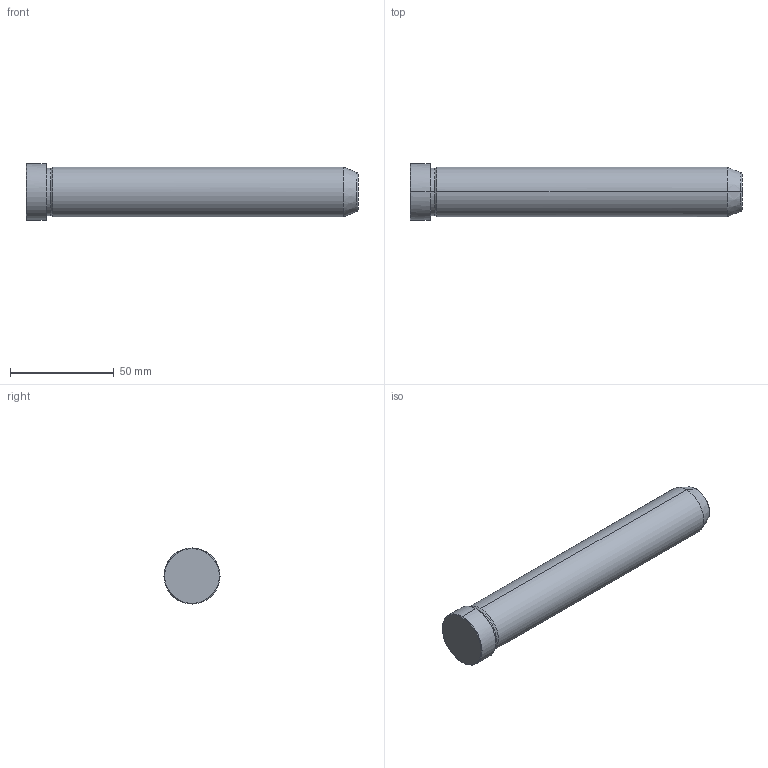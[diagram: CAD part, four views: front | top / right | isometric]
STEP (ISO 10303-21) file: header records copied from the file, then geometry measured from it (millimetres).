
FILE_DESCRIPTION(('CATIA V5 STEP Exchange'),'2;1');
FILE_NAME('C:\Users\Utente\Desktop\IO LAVORO\3D X SITO CF\X SITO\PLASTICA\549\549-24X160.stp','2021-12-17T14:03:47+00:00',('none'),('none'),'CATIA Version 5 Release 20 GA (IN-10)','CATIA V5 STEP AP203','none');
FILE_SCHEMA(('CONFIG_CONTROL_DESIGN'));
Length unit declared in the file: millimetre
Products named in the file (1): 549-24X160
Bounding box: 160 x 27 x 27 mm (x, y, z)
Volume: 72794.1 mm3; surface area: 13088.9 mm2
Topology: 1 solids, 1 shells, 19 faces, 56 edges, 40 vertices
Faces by surface type: cone 8, cylinder 6, plane 3, torus 2
Entity records: 736 total; most frequent: CARTESIAN_POINT 192, ORIENTED_EDGE 112, DIRECTION 86, EDGE_CURVE 56, AXIS2_PLACEMENT_3D 54, VERTEX_POINT 40, CIRCLE 34, EDGE_LOOP 20
